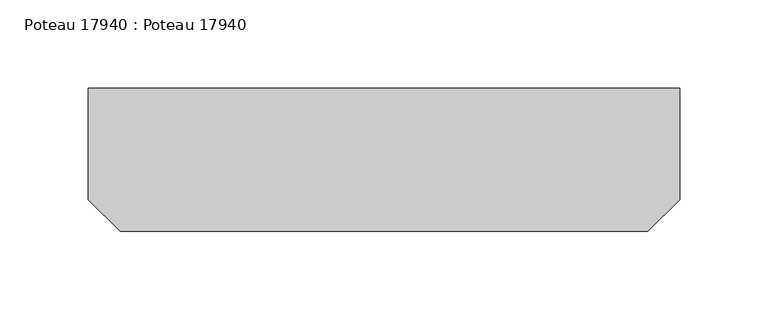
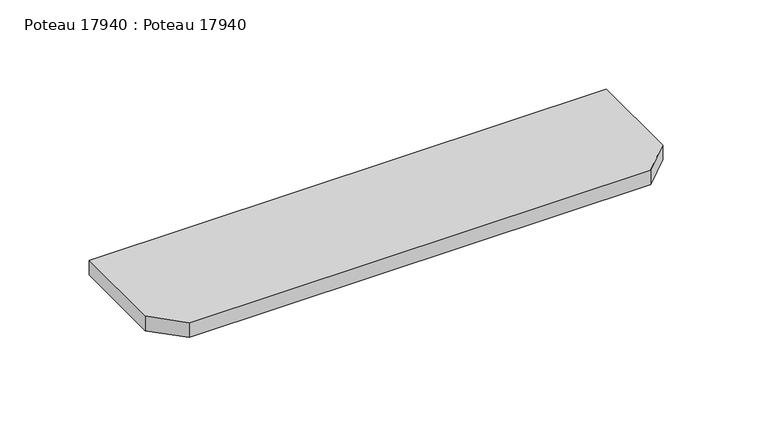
"""IFC4 building model written with IfcOpenShell, lengths in millimetres: beam geometry, Poteau 17940 : Poteau 17940."""

from ifc_helpers import new_model, si_unit, frame, origin, place, context, project, spatial, polyline, outline, extrude, source, transform, mapped, element, save


def poteau_17940_poteau_17940_64b331ff(model_context):
    return source(origin(), model_context, "Body", "SweptSolid", [
        extrude(outline(polyline([(-167.3000001, -39730.0), (167.2999999, -39730.0), (167.2999999, -39793.0), (149.2999999, -39811.0), (-149.3000001, -39811.0), (-167.3000001, -39793.0), (-167.3000001, -39730.0)])), frame((0.0, 0.0, 7545.5669486), z_axis=(0.0, 0.0, 1.0), x_axis=(1.0, 0.0, 0.0)), (0.0, 0.0, 1.0), 10.0),
    ])


if __name__ == "__main__":
    model = new_model("IFC4")
    model_context = context("Model", 3, world=origin())
    ifc_project = project(units=[si_unit("LENGTHUNIT", "METRE", prefix="MILLI")], contexts=[model_context])
    site = spatial("IfcSite", under=ifc_project)
    building = spatial("IfcBuilding", under=site)
    placement = place(None, origin())
    poteau_17940_poteau_17940_shape = poteau_17940_poteau_17940_64b331ff(model_context)
    element("IfcBeam", 1, ObjectType="Poteau 17940 : Poteau 17940", at=placement, inside=building, context=model_context, shape_type="MappedRepresentation", body=[
        mapped(poteau_17940_poteau_17940_shape, transform((0.0, 0.0, 0.0), x_axis=(1.0, 0.0, 0.0), y_axis=(0.0, 1.0, 0.0), z_axis=(0.0, 0.0, 1.0))),
    ])
    save(model, "model.ifc")
